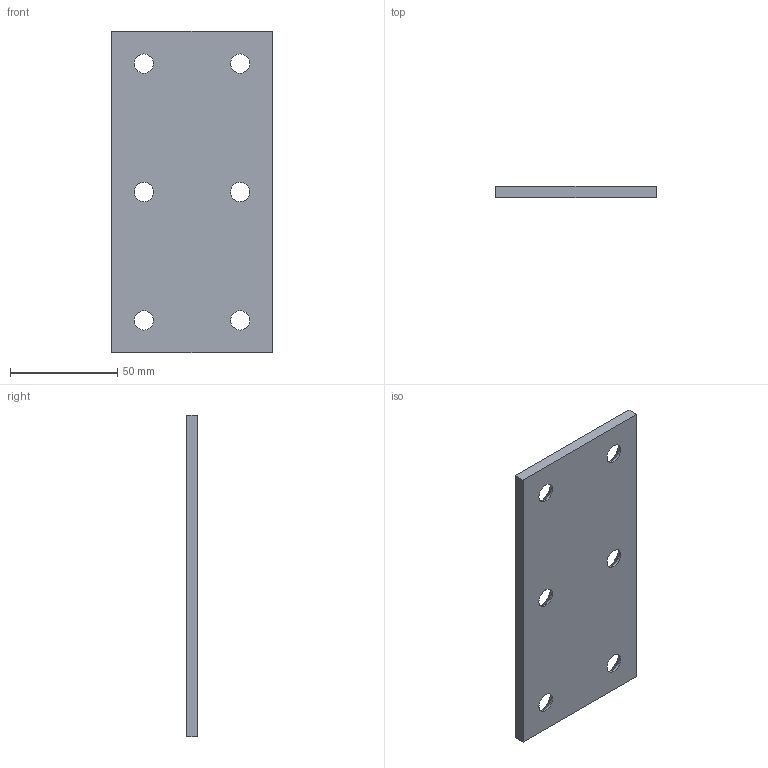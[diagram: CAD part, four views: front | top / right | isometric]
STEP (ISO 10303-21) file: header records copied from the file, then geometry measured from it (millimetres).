
FILE_DESCRIPTION(('CATIA V5 STEP Exchange'),'2;1');
FILE_NAME('C:\Users\Utente\Desktop\3D files A605\A605-075-150.stp','2020-04-13T15:43:02+00:00',('none'),('none'),'CATIA Version 5 Release 20 GA (IN-10)','CATIA V5 STEP AP203','none');
FILE_SCHEMA(('CONFIG_CONTROL_DESIGN'));
Length unit declared in the file: millimetre
Products named in the file (1): Noname
Bounding box: 75 x 5 x 150 mm (x, y, z)
Surface area: 24562.3 mm2 (no closed solid volume)
Topology: 0 solids, 18 shells, 30 faces, 120 edges, 96 vertices
Faces by surface type: cylinder 12, revolution 12, extrusion 6
Entity records: 1566 total; most frequent: CARTESIAN_POINT 577, ORIENTED_EDGE 144, DIRECTION 138, EDGE_CURVE 120, VERTEX_POINT 96, AXIS2_PLACEMENT_3D 61, VECTOR 54, CIRCLE 48
